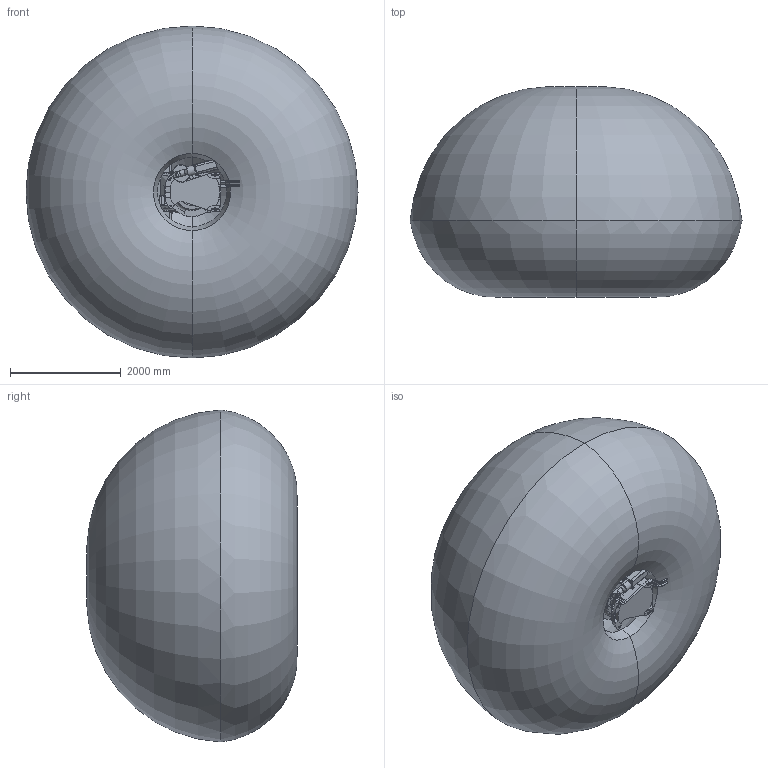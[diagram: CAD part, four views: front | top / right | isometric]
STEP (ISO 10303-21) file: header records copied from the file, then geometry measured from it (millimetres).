
FILE_DESCRIPTION (( 'STEP AP214' ), '1' );
FILE_NAME ('SMART NJ 370-3.0 (3D-STEP).STEP', '2008-10-06T12:49:27', ( 'Comau' ), ( 'Comau S.p.A.' ), 'SwSTEP 2.0', 'SolidWorks 2005235', '' );
FILE_SCHEMA (( 'AUTOMOTIVE_DESIGN' ));
Length unit declared in the file: millimetre
Products named in the file (18): Operation area SMART NJ 370-3.0; SMART NJ 370-3.0_P14; SMART NJ 370-3.0_P06; SMART NJ 370-3.0_CR82309760_LAFERT-SM; SMART NJ 370-3.0_P07; SMART NJ 370-3.0 (3D-STEP); SMART NJ 370-3.0_P03; SMART NJ 370-3.0_P04; SMART NJ 370-3.0_P05; SMART NJ 370-3.0_P13; SMART NJ 370-3.0_P01; SMART NJ 370-3.0_P02; SMART NJ 370-3.0_P08; SMART NJ 370-3.0_P09; SMART NJ 370-3.0_P10; SMART NJ 370-3.0_P11; SMART NJ 370-3.0_P12; SMART NJ 370-3.0_CR82309740_LAFERT-SM
Assembly tree (23 placements, depth 2):
  SMART NJ 370-3.0 (3D-STEP)
    SMART NJ 370-3.0_P04
    SMART NJ 370-3.0_CR82309740_LAFERT-SM  x3
    SMART NJ 370-3.0_P08  x2
    SMART NJ 370-3.0_P01
    SMART NJ 370-3.0_P03
    SMART NJ 370-3.0_P06
    SMART NJ 370-3.0_P12
    SMART NJ 370-3.0_P09  x2
    SMART NJ 370-3.0_P02
    SMART NJ 370-3.0_P10
    SMART NJ 370-3.0_CR82309760_LAFERT-SM  x3
    SMART NJ 370-3.0_P14
    Operation area SMART NJ 370-3.0
    SMART NJ 370-3.0_P05
    SMART NJ 370-3.0_P11
    SMART NJ 370-3.0_P13
    SMART NJ 370-3.0_P07
Bounding box: 5994.95 x 3797.26 x 5994.95 mm (x, y, z)
Volume: 67933989051.1 mm3; surface area: 135121404.3 mm2
Topology: 24 solids, 37 shells, 5088 faces, 13258 edges, 8347 vertices
Faces by surface type: plane 2146, cylinder 2096, bspline 405, torus 185, cone 175, sphere 81
Entity records: 169197 total; most frequent: CARTESIAN_POINT 55734, ORIENTED_EDGE 23352, DIRECTION 21714, EDGE_CURVE 11676, AXIS2_PLACEMENT_3D 7883, VERTEX_POINT 7493, VECTOR 5948, LINE 5948
